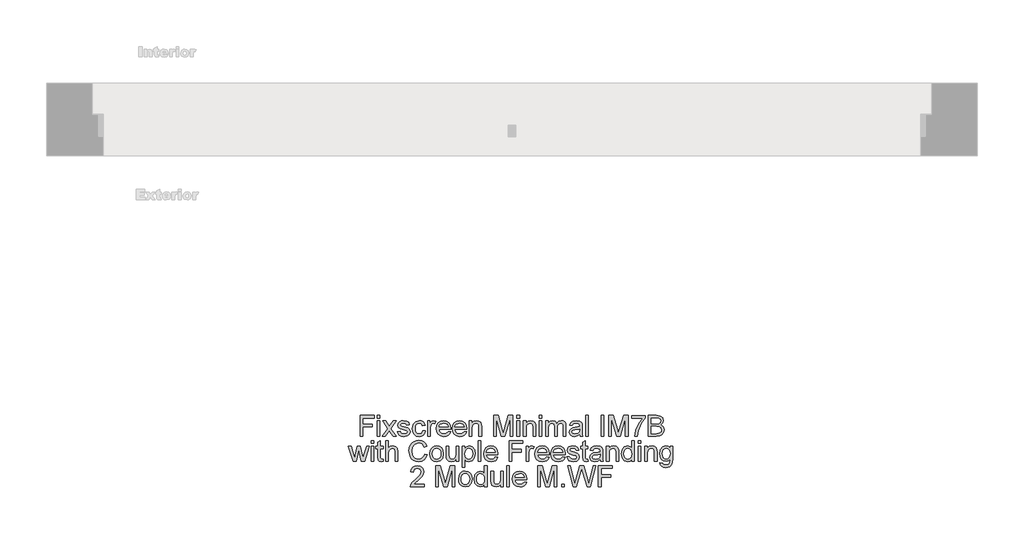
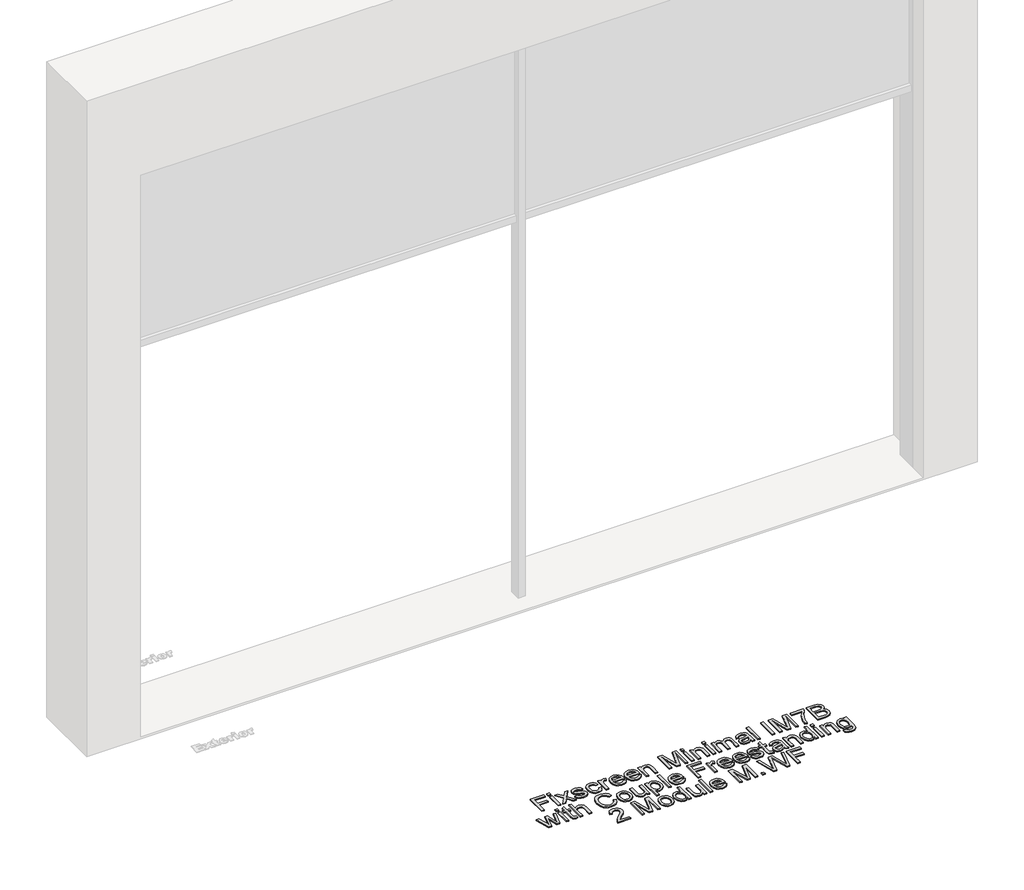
# One storey, part 8 of 14: 1 proxy.
"""IFC4 building model written with IfcOpenShell, lengths in millimetres."""

from ifc_helpers import new_model, si_unit, origin, origin_with_axes, place, context, project, spatial, polyline, outline, extrude, element, save

model = new_model("IFC4")

# Units and contexts
model_context = context("Model", 3, world=origin())
ifc_project = project(units=[si_unit("LENGTHUNIT", "METRE", prefix="MILLI")], contexts=[model_context])

# Site, building, storey
site = spatial("IfcSite", under=ifc_project)
building = spatial("IfcBuilding", under=site)
storey = spatial("IfcBuildingStorey", under=building, Name="Fixscreen Mini CF Overview Top", Elevation=0.0)

# Proxy
placement = place(None, origin())
element("IfcBuildingElementProxy", 1, Name="100mm Arial", ObjectType="100mm Arial", at=placement, inside=storey, context=model_context, shape_type="SweptSolid", body=[
    extrude(outline(polyline([(-8278.0016638, 8794.9284849), (-8278.0016638, 8895.3847951), (-8210.5075804, 8895.3847951), (-8210.5075804, 8882.8277563), (-8265.444625, 8882.8277563), (-8265.444625, 8853.0047892), (-8218.3557296, 8853.0047892), (-8218.3557296, 8840.4477504), (-8265.444625, 8840.4477504), (-8265.444625, 8794.9284849), (-8278.0016638, 8794.9284849)])), origin_with_axes(), (0.0, 0.0, 1.0), 5.0),
    extrude(outline(polyline([(-8194.811282, 8794.9284849), (-8194.811282, 8868.7010877), (-8182.2542432, 8868.7010877), (-8182.2542432, 8794.9284849), (-8194.811282, 8794.9284849)])), origin_with_axes(), (0.0, 0.0, 1.0), 5.0),
    extrude(outline(polyline([(-8194.811282, 8882.8277563), (-8194.811282, 8895.3847951), (-8182.2542432, 8895.3847951), (-8182.2542432, 8882.8277563), (-8194.811282, 8882.8277563)])), origin_with_axes(), (0.0, 0.0, 1.0), 5.0),
    extrude(outline(polyline([(-8171.2668343, 8794.9284849), (-8144.4359741, 8832.01099), (-8169.6972044, 8868.7010877), (-8154.5895171, 8868.7010877), (-8142.4003604, 8851.0427519), (-8136.7104522, 8842.7040933), (-8131.7808334, 8849.522173), (-8117.8994195, 8868.7010877), (-8102.7917322, 8868.7010877), (-8129.3282868, 8832.01099), (-8103.7727509, 8794.9284849), (-8118.8804381, 8794.9284849), (-8134.2579055, 8817.2221338), (-8137.0783342, 8821.2933612), (-8156.159147, 8794.9284849), (-8171.2668343, 8794.9284849)])), origin_with_axes(), (0.0, 0.0, 1.0), 5.0),
    extrude(outline(polyline([(-8097.4942315, 8816.9033027), (-8084.9371927, 8818.4729326), (-8079.1246572, 8809.1532554), (-8065.807329, 8805.9158938), (-8053.0050355, 8808.8834753), (-8048.8357063, 8815.8487077), (-8053.029561, 8821.489565), (-8065.9544818, 8825.070283), (-8084.8636163, 8831.2139124), (-8093.1164358, 8838.3876113), (-8095.9246016, 8848.5166289), (-8093.6682587, 8857.8730943), (-8087.5123667, 8865.0222677), (-8079.5293274, 8868.7378759), (-8068.7258595, 8870.2707175), (-8053.4464939, 8867.8059081), (-8043.7344093, 8861.1349813), (-8039.4179272, 8849.8655295), (-8051.974966, 8848.2958997), (-8056.6961182, 8855.2243439), (-8067.7448408, 8857.7136787), (-8079.7623193, 8855.3347085), (-8083.3675629, 8849.7919531), (-8081.8715094, 8846.1376586), (-8077.1871454, 8843.3662809), (-8066.3714147, 8840.6930051), (-8047.9405267, 8834.7823677), (-8039.381139, 8828.0869154), (-8036.2786675, 8817.1730829), (-8039.9206992, 8805.1556044), (-8050.4298616, 8796.4368011), (-8065.9790072, 8793.3588551), (-8078.6402792, 8794.8426458), (-8087.8802487, 8799.2940179), (-8094.0484035, 8806.6639205), (-8097.4942315, 8816.9033027)])), origin_with_axes(), (0.0, 0.0, 1.0), 5.0),
    extrude(outline(polyline([(-7975.0631035, 8821.6121923), (-7962.5060647, 8820.0425624), (-7966.0070751, 8808.8742782), (-7972.5860314, 8800.4344521), (-7981.6236657, 8795.1277543), (-7992.5007101, 8793.3588551), (-8005.8578922, 8795.8267301), (-8016.3026752, 8803.2303553), (-8023.0441127, 8815.2447681), (-8025.2912586, 8831.5450062), (-8021.4530231, 8852.4039153), (-8009.7543756, 8865.8070826), (-7992.6723883, 8870.2707175), (-7982.0620585, 8868.7378759), (-7973.5793128, 8864.1393509), (-7967.4939314, 8856.7203974), (-7964.0756946, 8846.7262698), (-7976.6327333, 8845.15664), (-7982.4575316, 8854.5621563), (-7992.5742865, 8857.7136787), (-8000.6891501, 8856.162443), (-8007.1301507, 8851.5087358), (-8011.3332025, 8843.501171), (-8012.7342198, 8831.8883627), (-8011.3638594, 8820.1192045), (-8007.2527781, 8812.0840486), (-8000.9282734, 8807.4579325), (-7992.917643, 8805.9158938), (-7981.0841055, 8809.766392), (-7975.0631035, 8821.6121923)])), origin_with_axes(), (0.0, 0.0, 1.0), 5.0),
    extrude(outline(polyline([(-7951.5186558, 8794.9284849), (-7951.5186558, 8868.7010877), (-7940.5312469, 8868.7010877), (-7940.5312469, 8857.7872551), (-7932.7321486, 8867.8426963), (-7924.8839994, 8870.2707175), (-7912.2779097, 8866.3956938), (-7916.4717644, 8855.1385048), (-7925.3009323, 8857.7136787), (-7932.4010548, 8855.2366066), (-7936.9260033, 8848.3694761), (-7938.961617, 8833.7032472), (-7938.961617, 8794.9284849), (-7951.5186558, 8794.9284849)])), origin_with_axes(), (0.0, 0.0, 1.0), 5.0),
    extrude(outline(polyline([(-7852.7791283, 8816.9033027), (-7840.4673442, 8815.3336729), (-7844.9033879, 8806.0569153), (-7851.9820506, 8799.1223396), (-7861.5439168, 8794.7997262), (-7873.429571, 8793.3588551), (-7888.1632449, 8795.8451242), (-7899.5001417, 8803.3039317), (-7906.7290229, 8815.2508995), (-7909.13865, 8831.2016496), (-7906.7044974, 8847.6888944), (-7899.4020398, 8860.0190726), (-7888.2184272, 8867.7078063), (-7874.1408095, 8870.2707175), (-7860.5015845, 8867.7139376), (-7849.6030804, 8860.043598), (-7842.4569727, 8847.7379453), (-7840.0749367, 8831.275226), (-7840.1485131, 8827.8907117), (-7896.5816112, 8827.8907117), (-7894.4080417, 8818.4913267), (-7889.3588614, 8811.5812765), (-7882.0717322, 8807.3322395), (-7873.1843163, 8805.9158938), (-7860.8725322, 8808.5401187), (-7852.7791283, 8816.9033027)]), holes=[polyline([(-7896.5816112, 8840.4477504), (-7852.6319755, 8840.4477504), (-7857.6596961, 8851.8275668), (-7864.9805478, 8856.2421508), (-7874.1898604, 8857.7136787), (-7889.653167, 8853.0170519), (-7894.5184063, 8847.5264132), (-7896.5816112, 8840.4477504)])]), origin_with_axes(), (0.0, 0.0, 1.0), 5.0),
    extrude(outline(polyline([(-7775.8672658, 8816.9033027), (-7763.5554817, 8815.3336729), (-7767.9915255, 8806.0569153), (-7775.0701882, 8799.1223396), (-7784.6320544, 8794.7997262), (-7796.5177085, 8793.3588551), (-7811.2513824, 8795.8451242), (-7822.5882792, 8803.3039317), (-7829.8171604, 8815.2508995), (-7832.2267875, 8831.2016496), (-7829.792635, 8847.6888944), (-7822.4901774, 8860.0190726), (-7811.3065647, 8867.7078063), (-7797.228947, 8870.2707175), (-7783.5897221, 8867.7139376), (-7772.691218, 8860.043598), (-7765.5451102, 8847.7379453), (-7763.1630743, 8831.275226), (-7763.2366507, 8827.8907117), (-7819.6697487, 8827.8907117), (-7817.4961793, 8818.4913267), (-7812.4469989, 8811.5812765), (-7805.1598697, 8807.3322395), (-7796.2724538, 8805.9158938), (-7783.9606697, 8808.5401187), (-7775.8672658, 8816.9033027)]), holes=[polyline([(-7819.6697487, 8840.4477504), (-7775.720113, 8840.4477504), (-7780.7478336, 8851.8275668), (-7788.0686854, 8856.2421508), (-7797.277998, 8857.7136787), (-7812.7413045, 8853.0170519), (-7817.6065439, 8847.5264132), (-7819.6697487, 8840.4477504)])]), origin_with_axes(), (0.0, 0.0, 1.0), 5.0),
    extrude(outline(polyline([(-7750.6060355, 8794.9284849), (-7750.6060355, 8868.7010877), (-7738.0489967, 8868.7010877), (-7738.0489967, 8858.4003918), (-7728.4472767, 8867.3031361), (-7715.3384149, 8870.2707175), (-7703.4803519, 8867.8794845), (-7695.386948, 8861.6009652), (-7691.6222889, 8852.3671271), (-7690.9601014, 8840.2270212), (-7690.9601014, 8794.9284849), (-7703.5171401, 8794.9284849), (-7703.5171401, 8838.5347641), (-7704.9641426, 8849.6448003), (-7710.0777024, 8855.5186495), (-7718.6984038, 8857.7136787), (-7732.3223003, 8852.78406), (-7736.6173226, 8845.6410179), (-7738.0489967, 8834.0711292), (-7738.0489967, 8794.9284849), (-7750.6060355, 8794.9284849)])), origin_with_axes(), (0.0, 0.0, 1.0), 5.0),
    extrude(outline(polyline([(-7632.8837971, 8794.9284849), (-7632.8837971, 8895.3847951), (-7611.2768612, 8895.3847951), (-7590.7245204, 8824.5797737), (-7586.5797166, 8809.7909175), (-7582.0915563, 8825.806047), (-7561.882572, 8895.3847951), (-7540.2756361, 8895.3847951), (-7540.2756361, 8794.9284849), (-7552.8326749, 8794.9284849), (-7552.8326749, 8882.8277563), (-7578.0693798, 8794.9284849), (-7595.0900534, 8794.9284849), (-7620.3267583, 8882.8277563), (-7620.3267583, 8794.9284849), (-7632.8837971, 8794.9284849)])), origin_with_axes(), (0.0, 0.0, 1.0), 5.0),
    extrude(outline(polyline([(-7519.8704481, 8882.8277563), (-7519.8704481, 8895.3847951), (-7507.3134094, 8895.3847951), (-7507.3134094, 8882.8277563), (-7519.8704481, 8882.8277563)])), origin_with_axes(), (0.0, 0.0, 1.0), 5.0),
    extrude(outline(polyline([(-7519.8704481, 8794.9284849), (-7519.8704481, 8868.7010877), (-7507.3134094, 8868.7010877), (-7507.3134094, 8794.9284849), (-7519.8704481, 8794.9284849)])), origin_with_axes(), (0.0, 0.0, 1.0), 5.0),
    extrude(outline(polyline([(-7488.4778512, 8794.9284849), (-7488.4778512, 8868.7010877), (-7475.9208124, 8868.7010877), (-7475.9208124, 8858.4003918), (-7466.3190924, 8867.3031361), (-7453.2102306, 8870.2707175), (-7441.3521676, 8867.8794845), (-7433.2587637, 8861.6009652), (-7429.4941047, 8852.3671271), (-7428.8319171, 8840.2270212), (-7428.8319171, 8794.9284849), (-7441.3889558, 8794.9284849), (-7441.3889558, 8838.5347641), (-7442.8359583, 8849.6448003), (-7447.9495181, 8855.5186495), (-7456.5702195, 8857.7136787), (-7470.1941161, 8852.78406), (-7474.4891383, 8845.6410179), (-7475.9208124, 8834.0711292), (-7475.9208124, 8794.9284849), (-7488.4778512, 8794.9284849)])), origin_with_axes(), (0.0, 0.0, 1.0), 5.0),
    extrude(outline(polyline([(-7411.5659888, 8794.9284849), (-7411.5659888, 8868.7010877), (-7399.00895, 8868.7010877), (-7399.00895, 8794.9284849), (-7411.5659888, 8794.9284849)])), origin_with_axes(), (0.0, 0.0, 1.0), 5.0),
    extrude(outline(polyline([(-7411.5659888, 8882.8277563), (-7411.5659888, 8895.3847951), (-7399.00895, 8895.3847951), (-7399.00895, 8882.8277563), (-7411.5659888, 8882.8277563)])), origin_with_axes(), (0.0, 0.0, 1.0), 5.0),
    extrude(outline(polyline([(-7380.1733918, 8794.9284849), (-7380.1733918, 8868.7010877), (-7367.6163531, 8868.7010877), (-7367.6163531, 8856.5609818), (-7358.9833889, 8866.5060584), (-7346.6961303, 8870.2707175), (-7334.114566, 8866.432482), (-7327.1983845, 8855.678065), (-7317.4004607, 8866.6225544), (-7305.027363, 8870.2707175), (-7295.5881241, 8868.7532043), (-7288.6075632, 8864.2006646), (-7284.2941468, 8856.4904711), (-7282.8563414, 8845.4999965), (-7282.8563414, 8794.9284849), (-7295.4133801, 8794.9284849), (-7295.4133801, 8840.1043939), (-7296.5783398, 8850.5890308), (-7300.79672, 8855.7516414), (-7307.9704189, 8857.7136787), (-7320.3189912, 8852.6859581), (-7324.0070082, 8846.14379), (-7325.2363472, 8836.5727268), (-7325.2363472, 8794.9284849), (-7337.793386, 8794.9284849), (-7337.793386, 8841.5023455), (-7340.6996538, 8853.6669768), (-7350.2277974, 8857.7136787), (-7359.5229492, 8855.0158774), (-7365.7033667, 8847.1186773), (-7367.6163531, 8832.1336173), (-7367.6163531, 8794.9284849), (-7380.1733918, 8794.9284849)])), origin_with_axes(), (0.0, 0.0, 1.0), 5.0),
    extrude(outline(polyline([(-7216.9318878, 8804.346264), (-7229.1087819, 8795.8359272), (-7242.5610002, 8793.3588551), (-7253.0548341, 8794.8487771), (-7260.7956844, 8799.3185434), (-7265.5689533, 8806.1059662), (-7267.1600429, 8814.548858), (-7264.7565472, 8824.4816718), (-7258.4412396, 8831.692159), (-7249.6488599, 8835.8124373), (-7238.7840784, 8837.7008982), (-7217.0054642, 8842.0173803), (-7216.9318878, 8844.8132834), (-7220.3899786, 8854.0839097), (-7234.2713925, 8857.7136787), (-7246.9755841, 8855.2979203), (-7253.0333743, 8846.7262698), (-7265.5904131, 8848.2958997), (-7260.1580223, 8860.5586328), (-7249.2196643, 8867.7445945), (-7232.6527118, 8870.2707175), (-7217.4346599, 8868.0389001), (-7208.8384839, 8862.434831), (-7204.9879857, 8853.9122315), (-7204.3748491, 8842.9248225), (-7204.3748491, 8827.3021005), (-7203.7371869, 8805.4866982), (-7201.2355894, 8794.9284849), (-7213.7926281, 8794.9284849), (-7216.9318878, 8804.346264)]), holes=[polyline([(-7216.9318878, 8829.4603415), (-7237.189923, 8825.6098433), (-7247.993391, 8823.5742296), (-7252.8862215, 8820.2632916), (-7254.6030041, 8815.4317748), (-7250.8628705, 8808.6382206), (-7239.8877243, 8805.9158938), (-7227.1835328, 8808.9202635), (-7218.992027, 8816.1920642), (-7217.0054642, 8825.9041489), (-7216.9318878, 8829.4603415)])]), origin_with_axes(), (0.0, 0.0, 1.0), 5.0),
    extrude(outline(polyline([(-7187.1089208, 8794.9284849), (-7187.1089208, 8895.3847951), (-7174.551882, 8895.3847951), (-7174.551882, 8794.9284849), (-7187.1089208, 8794.9284849)])), origin_with_axes(), (0.0, 0.0, 1.0), 5.0),
    extrude(outline(polyline([(-7113.336318, 8794.9284849), (-7113.336318, 8895.3847951), (-7100.7792792, 8895.3847951), (-7100.7792792, 8794.9284849), (-7113.336318, 8794.9284849)])), origin_with_axes(), (0.0, 0.0, 1.0), 5.0),
    extrude(outline(polyline([(-7075.6652017, 8794.9284849), (-7075.6652017, 8895.3847951), (-7054.0582658, 8895.3847951), (-7033.505925, 8824.5797737), (-7029.3611212, 8809.7909175), (-7024.8729609, 8825.806047), (-7004.6639766, 8895.3847951), (-6983.0570408, 8895.3847951), (-6983.0570408, 8794.9284849), (-6995.6140795, 8794.9284849), (-6995.6140795, 8882.8277563), (-7020.8507844, 8794.9284849), (-7037.8714581, 8794.9284849), (-7063.1081629, 8882.8277563), (-7063.1081629, 8794.9284849), (-7075.6652017, 8794.9284849)])), origin_with_axes(), (0.0, 0.0, 1.0), 5.0),
    extrude(outline(polyline([(-6965.7911125, 8881.2581264), (-6965.7911125, 8893.8151652), (-6899.8666589, 8893.8151652), (-6899.8666589, 8883.6616221), (-6918.567327, 8856.646821), (-6932.8779366, 8822.2253289), (-6937.5377752, 8794.9284849), (-6950.094814, 8794.9284849), (-6945.1038816, 8823.2553985), (-6931.4064087, 8855.2733948), (-6912.4236977, 8881.2581264), (-6965.7911125, 8881.2581264)])), origin_with_axes(), (0.0, 0.0, 1.0), 5.0),
    extrude(outline(polyline([(-6884.1703605, 8794.9284849), (-6884.1703605, 8895.3847951), (-6845.8370566, 8895.3847951), (-6827.0628121, 8892.4294764), (-6815.9773013, 8883.3427911), (-6811.9673875, 8870.4914467), (-6815.3396392, 8858.7560111), (-6825.5299704, 8849.8655295), (-6813.1568727, 8840.4968014), (-6808.8281279, 8824.8740793), (-6811.7834466, 8811.3728101), (-6819.1042983, 8801.7588273), (-6830.0303935, 8796.6575303), (-6846.1313622, 8794.9284849), (-6884.1703605, 8794.9284849)]), holes=[polyline([(-6871.6133217, 8854.5744191), (-6848.6820107, 8854.5744191), (-6835.291106, 8855.6535396), (-6827.2344903, 8860.3011154), (-6824.5244263, 8868.4803585), (-6827.0505494, 8876.6718642), (-6834.2855619, 8881.5156438), (-6850.4233188, 8882.8277563), (-6871.6133217, 8882.8277563), (-6871.6133217, 8854.5744191)]), polyline([(-6871.6133217, 8807.4855237), (-6845.861582, 8807.4855237), (-6836.5419048, 8807.976033), (-6828.6569674, 8810.7106225), (-6823.4330431, 8816.2901661), (-6821.3851666, 8824.751452), (-6823.7886623, 8834.5125876), (-6831.5754979, 8840.3373858), (-6847.0878554, 8842.0173803), (-6871.6133217, 8842.0173803), (-6871.6133217, 8807.4855237)])]), origin_with_axes(), (0.0, 0.0, 1.0), 5.0),
    extrude(outline(polyline([(-8312.0675365, 8672.9536671), (-8334.5083383, 8746.7262698), (-8321.4607902, 8746.7262698), (-8308.7320731, 8703.6840764), (-8304.9306258, 8688.306609), (-8301.8158916, 8703.1199907), (-8291.686874, 8746.7262698), (-8276.7263395, 8746.7262698), (-8266.6463729, 8703.242618), (-8263.8749952, 8689.8271879), (-8259.9018696, 8703.978382), (-8247.1486271, 8746.7262698), (-8234.0520281, 8746.7262698), (-8256.6645081, 8672.9536671), (-8271.8457717, 8672.9536671), (-8281.48428, 8716.2165897), (-8284.2801832, 8729.7055962), (-8296.7145946, 8672.9536671), (-8312.0675365, 8672.9536671)])), origin_with_axes(), (0.0, 0.0, 1.0), 5.0),
    extrude(outline(polyline([(-8225.419064, 8672.9536671), (-8225.419064, 8746.7262698), (-8212.8620252, 8746.7262698), (-8212.8620252, 8672.9536671), (-8225.419064, 8672.9536671)])), origin_with_axes(), (0.0, 0.0, 1.0), 5.0),
    extrude(outline(polyline([(-8225.419064, 8760.8529384), (-8225.419064, 8773.4099772), (-8212.8620252, 8773.4099772), (-8212.8620252, 8760.8529384), (-8225.419064, 8760.8529384)])), origin_with_axes(), (0.0, 0.0, 1.0), 5.0),
    extrude(outline(polyline([(-8167.3427596, 8683.4260412), (-8165.7731298, 8672.5857851), (-8175.1663834, 8671.3840372), (-8185.6878085, 8673.4687018), (-8190.9362583, 8678.9378808), (-8192.4568372, 8693.1871768), (-8192.4568372, 8734.1692311), (-8201.8746163, 8734.1692311), (-8201.8746163, 8746.7262698), (-8192.4568372, 8746.7262698), (-8192.4568372, 8764.6543857), (-8179.8997984, 8772.0365511), (-8179.8997984, 8746.7262698), (-8167.3427596, 8746.7262698), (-8167.3427596, 8734.1692311), (-8179.8997984, 8734.1692311), (-8179.8997984, 8693.5550588), (-8179.2376108, 8687.0803357), (-8177.0916325, 8684.7872046), (-8172.8119386, 8683.941076), (-8167.3427596, 8683.4260412)])), origin_with_axes(), (0.0, 0.0, 1.0), 5.0),
    extrude(outline(polyline([(-8154.7857209, 8672.9536671), (-8154.7857209, 8773.4099772), (-8142.2286821, 8773.4099772), (-8142.2286821, 8736.4746249), (-8132.4368897, 8745.340581), (-8120.3764916, 8748.2958997), (-8106.2743484, 8745.0708008), (-8097.7149607, 8736.1557938), (-8095.1397867, 8719.650155), (-8095.1397867, 8672.9536671), (-8107.6968255, 8672.9536671), (-8107.6968255, 8718.3503053), (-8111.6944765, 8731.5940571), (-8123.025242, 8735.7388609), (-8133.3136751, 8732.9429577), (-8140.1808057, 8725.3645886), (-8142.2286821, 8712.1453623), (-8142.2286821, 8672.9536671), (-8154.7857209, 8672.9536671)])), origin_with_axes(), (0.0, 0.0, 1.0), 5.0),
    extrude(outline(polyline([(-7966.4301393, 8708.6627461), (-7953.8731006, 8705.4253845), (-7959.667242, 8690.7928781), (-7968.7600586, 8680.1028405), (-7980.7039608, 8673.563738), (-7995.0513586, 8671.3840372), (-8009.6164199, 8673.0333748), (-8021.183243, 8677.9813877), (-8030.049199, 8686.0563975), (-8036.5116594, 8697.0867259), (-8041.772372, 8723.9421116), (-8040.2855156, 8738.5899464), (-8035.8249464, 8751.2389556), (-8028.6236563, 8761.4875349), (-8018.9146373, 8768.9340796), (-8007.3999309, 8773.4682252), (-7994.7815784, 8774.9796071), (-7981.0135948, 8773.0237011), (-7969.6307127, 8767.1559833), (-7960.9885515, 8757.7382042), (-7955.4427304, 8745.1321145), (-7967.9997692, 8742.1400076), (-7978.3004651, 8757.5787887), (-7995.2720878, 8762.4225683), (-8014.9169863, 8757.0514912), (-8026.0147598, 8742.6305169), (-8029.2153332, 8723.9666371), (-8025.4261486, 8702.3351757), (-8013.6293993, 8688.5150755), (-7996.3021574, 8683.941076), (-7985.8205862, 8685.4984431), (-7977.0864545, 8690.1705444), (-7970.4921697, 8697.9083291), (-7966.4301393, 8708.6627461)])), origin_with_axes(), (0.0, 0.0, 1.0), 5.0),
    extrude(outline(polyline([(-7941.3160618, 8709.8399684), (-7938.5998664, 8727.6270629), (-7930.4512802, 8740.1289194), (-7920.3835763, 8746.2541546), (-7908.3293096, 8748.2958997), (-7895.1376744, 8745.8096305), (-7884.6009209, 8738.3508231), (-7877.6939364, 8726.5080885), (-7875.3916083, 8710.870038), (-7879.4628357, 8688.5273382), (-7891.3208987, 8675.8844603), (-7908.3293096, 8671.3840372), (-7921.6803603, 8673.8611093), (-7932.2048511, 8681.2923256), (-7939.0382591, 8693.3833805), (-7941.3160618, 8709.8399684)]), holes=[polyline([(-7928.759023, 8709.8644939), (-7927.3058892, 8698.5000059), (-7922.9464875, 8690.4035364), (-7916.3859253, 8685.5566911), (-7908.3293096, 8683.941076), (-7900.3094821, 8685.5658881), (-7893.7611826, 8690.4403246), (-7889.4017809, 8698.6440931), (-7887.948647, 8710.2569014), (-7889.410978, 8721.2902955), (-7893.7979708, 8729.2764005), (-7900.3554673, 8734.1232458), (-7908.3293096, 8735.7388609), (-7916.3859253, 8734.1293772), (-7922.9464875, 8729.300926), (-7927.3058892, 8721.2228505), (-7928.759023, 8709.8644939)])]), origin_with_axes(), (0.0, 0.0, 1.0), 5.0),
    extrude(outline(polyline([(-7814.1760443, 8672.9536671), (-7814.1760443, 8685.6333332), (-7824.0107563, 8674.9463612), (-7836.8375752, 8671.3840372), (-7848.6465872, 8673.8856348), (-7856.7890421, 8680.1641542), (-7860.5291757, 8689.410255), (-7861.2649397, 8701.084377), (-7861.2649397, 8746.7262698), (-7848.7079009, 8746.7262698), (-7848.7079009, 8706.9950143), (-7847.9476114, 8694.1927209), (-7842.9812045, 8686.6756655), (-7833.6247391, 8683.941076), (-7823.1401022, 8686.7369791), (-7816.211658, 8694.3521364), (-7814.1760443, 8708.343915), (-7814.1760443, 8746.7262698), (-7801.6190055, 8746.7262698), (-7801.6190055, 8672.9536671), (-7814.1760443, 8672.9536671)])), origin_with_axes(), (0.0, 0.0, 1.0), 5.0),
    extrude(outline(polyline([(-7784.3530772, 8644.7003298), (-7784.3530772, 8746.7262698), (-7771.7960384, 8746.7262698), (-7771.7960384, 8734.4144857), (-7763.1140233, 8744.8255462), (-7751.3908504, 8748.2958997), (-7735.4738228, 8743.4398573), (-7725.075025, 8729.7546471), (-7721.5678834, 8710.4040542), (-7725.5287462, 8690.0601798), (-7737.0311899, 8676.2032913), (-7752.9114293, 8671.3840372), (-7763.8375246, 8674.609136), (-7771.7960384, 8682.7638536), (-7771.7960384, 8644.7003298), (-7784.3530772, 8644.7003298)]), holes=[polyline([(-7771.7960384, 8709.2513572), (-7770.4379407, 8697.9941682), (-7766.3636476, 8690.1214935), (-7760.3518427, 8685.4861804), (-7753.1812095, 8683.941076), (-7745.8940803, 8685.5413627), (-7739.7289912, 8690.3422227), (-7735.5259394, 8698.5030716), (-7734.1249221, 8710.183325), (-7735.4922169, 8721.3792004), (-7739.5941011, 8729.3622397), (-7745.596709, 8734.1447056), (-7752.6661747, 8735.7388609), (-7759.7632315, 8734.043538), (-7765.9957656, 8728.9575695), (-7770.3459702, 8720.6403707), (-7771.7960384, 8709.2513572)])]), origin_with_axes(), (0.0, 0.0, 1.0), 5.0),
    extrude(outline(polyline([(-7707.4412147, 8672.9536671), (-7707.4412147, 8773.4099772), (-7694.884176, 8773.4099772), (-7694.884176, 8672.9536671), (-7707.4412147, 8672.9536671)])), origin_with_axes(), (0.0, 0.0, 1.0), 5.0),
    extrude(outline(polyline([(-7624.3979857, 8694.9284849), (-7612.0862016, 8693.3588551), (-7616.5222453, 8684.0820974), (-7623.600908, 8677.1475218), (-7633.1627742, 8672.8249084), (-7645.0484284, 8671.3840372), (-7659.7821023, 8673.8703064), (-7671.1189991, 8681.3291138), (-7678.3478803, 8693.2760816), (-7680.7575074, 8709.2268318), (-7678.3233548, 8725.7140765), (-7671.0208972, 8738.0442547), (-7659.8372846, 8745.7329884), (-7645.7596669, 8748.2958997), (-7632.1204419, 8745.7391198), (-7621.2219378, 8738.0687802), (-7614.07583, 8725.7631275), (-7611.6937941, 8709.3004082), (-7611.7673705, 8705.9158938), (-7668.2004686, 8705.9158938), (-7666.0268991, 8696.5165088), (-7660.9777188, 8689.6064587), (-7653.6905896, 8685.3574217), (-7644.8031737, 8683.941076), (-7632.4913896, 8686.5653009), (-7624.3979857, 8694.9284849)]), holes=[polyline([(-7668.2004686, 8718.4729326), (-7624.2508329, 8718.4729326), (-7629.2785535, 8729.852749), (-7636.5994052, 8734.2673329), (-7645.8087178, 8735.7388609), (-7661.2720243, 8731.0422341), (-7666.1372637, 8725.5515953), (-7668.2004686, 8718.4729326)])]), origin_with_axes(), (0.0, 0.0, 1.0), 5.0),
    extrude(outline(polyline([(-7558.3263794, 8672.9536671), (-7558.3263794, 8773.4099772), (-7490.832296, 8773.4099772), (-7490.832296, 8760.8529384), (-7545.7693406, 8760.8529384), (-7545.7693406, 8731.0299714), (-7498.6804452, 8731.0299714), (-7498.6804452, 8718.4729326), (-7545.7693406, 8718.4729326), (-7545.7693406, 8672.9536671), (-7558.3263794, 8672.9536671)])), origin_with_axes(), (0.0, 0.0, 1.0), 5.0),
    extrude(outline(polyline([(-7475.1359975, 8672.9536671), (-7475.1359975, 8746.7262698), (-7464.1485886, 8746.7262698), (-7464.1485886, 8735.8124373), (-7456.3494903, 8745.8678785), (-7448.5013411, 8748.2958997), (-7435.8952514, 8744.420876), (-7440.0891061, 8733.1636869), (-7448.918274, 8735.7388609), (-7456.0183965, 8733.2617888), (-7460.543345, 8726.3946582), (-7462.5789588, 8711.7284293), (-7462.5789588, 8672.9536671), (-7475.1359975, 8672.9536671)])), origin_with_axes(), (0.0, 0.0, 1.0), 5.0),
    extrude(outline(polyline([(-7376.39647, 8694.9284849), (-7364.0846859, 8693.3588551), (-7368.5207296, 8684.0820974), (-7375.5993924, 8677.1475218), (-7385.1612586, 8672.8249084), (-7397.0469127, 8671.3840372), (-7411.7805866, 8673.8703064), (-7423.1174834, 8681.3291138), (-7430.3463646, 8693.2760816), (-7432.7559917, 8709.2268318), (-7430.3218391, 8725.7140765), (-7423.0193815, 8738.0442547), (-7411.8357689, 8745.7329884), (-7397.7581512, 8748.2958997), (-7384.1189262, 8745.7391198), (-7373.2204221, 8738.0687802), (-7366.0743144, 8725.7631275), (-7363.6922784, 8709.3004082), (-7363.7658548, 8705.9158938), (-7420.1989529, 8705.9158938), (-7418.0253835, 8696.5165088), (-7412.9762031, 8689.6064587), (-7405.6890739, 8685.3574217), (-7396.801658, 8683.941076), (-7384.4898739, 8686.5653009), (-7376.39647, 8694.9284849)]), holes=[polyline([(-7420.1989529, 8718.4729326), (-7376.2493172, 8718.4729326), (-7381.2770378, 8729.852749), (-7388.5978895, 8734.2673329), (-7397.8072021, 8735.7388609), (-7413.2705087, 8731.0422341), (-7418.1357481, 8725.5515953), (-7420.1989529, 8718.4729326)])]), origin_with_axes(), (0.0, 0.0, 1.0), 5.0),
    extrude(outline(polyline([(-7299.4846076, 8694.9284849), (-7287.1728235, 8693.3588551), (-7291.6088672, 8684.0820974), (-7298.6875299, 8677.1475218), (-7308.2493961, 8672.8249084), (-7320.1350502, 8671.3840372), (-7334.8687241, 8673.8703064), (-7346.2056209, 8681.3291138), (-7353.4345022, 8693.2760816), (-7355.8441292, 8709.2268318), (-7353.4099767, 8725.7140765), (-7346.1075191, 8738.0442547), (-7334.9239064, 8745.7329884), (-7320.8462887, 8748.2958997), (-7307.2070638, 8745.7391198), (-7296.3085597, 8738.0687802), (-7289.1624519, 8725.7631275), (-7286.780416, 8709.3004082), (-7286.8539924, 8705.9158938), (-7343.2870904, 8705.9158938), (-7341.113521, 8696.5165088), (-7336.0643406, 8689.6064587), (-7328.7772114, 8685.3574217), (-7319.8897956, 8683.941076), (-7307.5780115, 8686.5653009), (-7299.4846076, 8694.9284849)]), holes=[polyline([(-7343.2870904, 8718.4729326), (-7299.3374548, 8718.4729326), (-7304.3651754, 8729.852749), (-7311.6860271, 8734.2673329), (-7320.8953397, 8735.7388609), (-7336.3586462, 8731.0422341), (-7341.2238856, 8725.5515953), (-7343.2870904, 8718.4729326)])]), origin_with_axes(), (0.0, 0.0, 1.0), 5.0),
    extrude(outline(polyline([(-7278.9322668, 8694.9284849), (-7266.375228, 8696.4981147), (-7260.5626925, 8687.1784375), (-7247.2453642, 8683.941076), (-7234.4430708, 8686.9086574), (-7230.2737415, 8693.8738898), (-7234.4675963, 8699.5147471), (-7247.392517, 8703.0954652), (-7266.3016516, 8709.2390945), (-7274.554471, 8716.4127934), (-7277.3626369, 8726.541811), (-7275.106294, 8735.8982764), (-7268.950402, 8743.0474499), (-7260.9673627, 8746.763058), (-7250.1638947, 8748.2958997), (-7234.8845292, 8745.8310903), (-7225.1724445, 8739.1601635), (-7220.8559625, 8727.8907117), (-7233.4130012, 8726.3210818), (-7238.1341535, 8733.2495261), (-7249.1828761, 8735.7388609), (-7261.2003546, 8733.3598907), (-7264.8055981, 8727.8171353), (-7263.3095447, 8724.1628408), (-7258.6251806, 8721.3914631), (-7247.80945, 8718.7181873), (-7229.378562, 8712.8075499), (-7220.8191743, 8706.1120976), (-7217.7167028, 8695.198265), (-7221.3587345, 8683.1807865), (-7231.8678968, 8674.4619832), (-7247.4170425, 8671.3840372), (-7260.0783145, 8672.8678279), (-7269.318284, 8677.3192001), (-7275.4864387, 8684.6891027), (-7278.9322668, 8694.9284849)])), origin_with_axes(), (0.0, 0.0, 1.0), 5.0),
    extrude(outline(polyline([(-7176.9063268, 8683.4260412), (-7175.3366969, 8672.5857851), (-7184.7299505, 8671.3840372), (-7195.2513756, 8673.4687018), (-7200.4998254, 8678.9378808), (-7202.0204043, 8693.1871768), (-7202.0204043, 8734.1692311), (-7211.4381834, 8734.1692311), (-7211.4381834, 8746.7262698), (-7202.0204043, 8746.7262698), (-7202.0204043, 8764.6543857), (-7189.4633655, 8772.0365511), (-7189.4633655, 8746.7262698), (-7176.9063268, 8746.7262698), (-7176.9063268, 8734.1692311), (-7189.4633655, 8734.1692311), (-7189.4633655, 8693.5550588), (-7188.8011779, 8687.0803357), (-7186.6551996, 8684.7872046), (-7182.3755058, 8683.941076), (-7176.9063268, 8683.4260412)])), origin_with_axes(), (0.0, 0.0, 1.0), 5.0),
    extrude(outline(polyline([(-7117.2603926, 8682.3714461), (-7129.4372867, 8673.8611093), (-7142.8895049, 8671.3840372), (-7153.3833389, 8672.8739593), (-7161.1241892, 8677.3437255), (-7165.8974581, 8684.1311483), (-7167.4885477, 8692.5740401), (-7165.085052, 8702.506854), (-7158.7697444, 8709.7173411), (-7149.9773647, 8713.8376195), (-7139.1125831, 8715.7260804), (-7117.333969, 8720.0425624), (-7117.2603926, 8722.8384656), (-7120.7184834, 8732.1090919), (-7134.5998973, 8735.7388609), (-7147.3040889, 8733.3231025), (-7153.3618791, 8724.751452), (-7165.9189178, 8726.3210818), (-7160.486527, 8738.583815), (-7149.5481691, 8745.7697766), (-7132.9812165, 8748.2958997), (-7117.7631647, 8746.0640822), (-7109.1669887, 8740.4600132), (-7105.3164905, 8731.9374136), (-7104.7033538, 8720.9500047), (-7104.7033538, 8705.3272826), (-7104.0656917, 8683.5118803), (-7101.5640942, 8672.9536671), (-7114.1211329, 8672.9536671), (-7117.2603926, 8682.3714461)]), holes=[polyline([(-7117.2603926, 8707.4855237), (-7137.5184278, 8703.6350255), (-7148.3218957, 8701.5994117), (-7153.2147263, 8698.2884738), (-7154.9315089, 8693.4569569), (-7151.1913753, 8686.6634027), (-7140.2162291, 8683.941076), (-7127.5120375, 8686.9454456), (-7119.3205318, 8694.2172464), (-7117.333969, 8703.9293311), (-7117.2603926, 8707.4855237)])]), origin_with_axes(), (0.0, 0.0, 1.0), 5.0),
    extrude(outline(polyline([(-7087.4374255, 8672.9536671), (-7087.4374255, 8746.7262698), (-7074.8803868, 8746.7262698), (-7074.8803868, 8736.425574), (-7065.2786667, 8745.3283182), (-7052.1698049, 8748.2958997), (-7040.311742, 8745.9046667), (-7032.2183381, 8739.6261473), (-7028.453679, 8730.3923092), (-7027.7914914, 8718.2522034), (-7027.7914914, 8672.9536671), (-7040.3485302, 8672.9536671), (-7040.3485302, 8716.5599462), (-7041.7955327, 8727.6699825), (-7046.9090924, 8733.5438317), (-7055.5297938, 8735.7388609), (-7069.1536904, 8730.8092422), (-7073.4487127, 8723.6662001), (-7074.8803868, 8712.0963113), (-7074.8803868, 8672.9536671), (-7087.4374255, 8672.9536671)])), origin_with_axes(), (0.0, 0.0, 1.0), 5.0),
    extrude(outline(polyline([(-6965.0062975, 8672.9536671), (-6965.0062975, 8684.7994673), (-6973.3142993, 8674.7378947), (-6984.7983489, 8671.3840372), (-7000.3474945, 8676.2400795), (-7011.3349035, 8689.7903997), (-7015.2344526, 8709.766392), (-7011.6414718, 8729.7546471), (-7000.8747921, 8743.5134337), (-6984.8473998, 8748.2958997), (-6973.2713797, 8744.8745971), (-6965.0062975, 8735.9841156), (-6965.0062975, 8773.4099772), (-6952.4492588, 8773.4099772), (-6952.4492588, 8672.9536671), (-6965.0062975, 8672.9536671)]), holes=[polyline([(-7002.6774138, 8709.815443), (-7001.2610682, 8698.4570864), (-6997.0120311, 8690.3790109), (-6990.837745, 8685.5505597), (-6983.645652, 8683.941076), (-6976.4566246, 8685.4769833), (-6970.4386883, 8690.0847053), (-6966.3643952, 8697.8500811), (-6965.0062975, 8708.8589498), (-6966.3889207, 8720.8948224), (-6970.5367902, 8729.2396123), (-6976.7080107, 8734.1140488), (-6984.1606868, 8735.7388609), (-6991.4263562, 8734.1784281), (-6997.3799131, 8729.4971297), (-7001.3530387, 8721.4558424), (-7002.6774138, 8709.815443)])]), origin_with_axes(), (0.0, 0.0, 1.0), 5.0),
    extrude(outline(polyline([(-6933.6137006, 8672.9536671), (-6933.6137006, 8746.7262698), (-6921.0566619, 8746.7262698), (-6921.0566619, 8672.9536671), (-6933.6137006, 8672.9536671)])), origin_with_axes(), (0.0, 0.0, 1.0), 5.0),
    extrude(outline(polyline([(-6933.6137006, 8760.8529384), (-6933.6137006, 8773.4099772), (-6921.0566619, 8773.4099772), (-6921.0566619, 8760.8529384), (-6933.6137006, 8760.8529384)])), origin_with_axes(), (0.0, 0.0, 1.0), 5.0),
    extrude(outline(polyline([(-6902.2211037, 8672.9536671), (-6902.2211037, 8746.7262698), (-6889.6640649, 8746.7262698), (-6889.6640649, 8736.425574), (-6880.0623449, 8745.3283182), (-6866.9534831, 8748.2958997), (-6855.0954201, 8745.9046667), (-6847.0020162, 8739.6261473), (-6843.2373571, 8730.3923092), (-6842.5751695, 8718.2522034), (-6842.5751695, 8672.9536671), (-6855.1322083, 8672.9536671), (-6855.1322083, 8716.5599462), (-6856.5792108, 8727.6699825), (-6861.6927706, 8733.5438317), (-6870.313472, 8735.7388609), (-6883.9373685, 8730.8092422), (-6888.2323908, 8723.6662001), (-6889.6640649, 8712.0963113), (-6889.6640649, 8672.9536671), (-6902.2211037, 8672.9536671)])), origin_with_axes(), (0.0, 0.0, 1.0), 5.0),
    extrude(outline(polyline([(-6828.4485009, 8666.6751477), (-6815.8914622, 8665.1055178), (-6811.8202348, 8658.4836419), (-6799.631078, 8655.6877387), (-6786.7797336, 8658.8515239), (-6780.648367, 8667.7297427), (-6779.7899757, 8682.3714461), (-6788.6314063, 8675.3081118), (-6799.4103488, 8672.9536671), (-6812.3567293, 8675.6943879), (-6822.010566, 8683.9165505), (-6828.0162396, 8695.9708172), (-6830.0181308, 8710.2078504), (-6826.42515, 8729.668808), (-6816.0263522, 8743.4398573), (-6800.0234854, 8748.2958997), (-6788.8214787, 8745.5490474), (-6779.7899757, 8737.3084907), (-6779.7899757, 8746.7262698), (-6767.2329369, 8746.7262698), (-6767.2329369, 8683.0336337), (-6770.6665022, 8658.6430574), (-6781.5435465, 8647.3000293), (-6799.8763326, 8643.1307), (-6811.5596517, 8644.5991623), (-6820.7597672, 8649.0045492), (-6826.6612076, 8656.3591234), (-6828.4485009, 8666.6751477)]), holes=[polyline([(-6817.461092, 8711.0662418), (-6816.1213884, 8699.5484696), (-6812.1022776, 8691.6298097), (-6806.0598158, 8687.0404818), (-6798.6500593, 8685.5107058), (-6791.2954851, 8687.0312847), (-6785.2223665, 8691.5930215), (-6781.1480734, 8699.4105139), (-6779.7899757, 8710.6983598), (-6781.1879273, 8721.5846011), (-6785.381782, 8729.4235533), (-6791.5438055, 8734.160034), (-6798.8462631, 8735.7388609), (-6806.0168963, 8734.1845595), (-6812.0287012, 8729.5216552), (-6816.1029943, 8721.799199), (-6817.461092, 8711.0662418)])]), origin_with_axes(), (0.0, 0.0, 1.0), 5.0),
    extrude(outline(polyline([(-7968.7845841, 8563.535888), (-7968.7845841, 8550.9788492), (-8034.7090377, 8550.9788492), (-8033.360137, 8559.6363388), (-8025.732717, 8572.9659298), (-8010.011893, 8587.5217941), (-7988.3313808, 8608.4420169), (-7982.9112527, 8622.6667873), (-7988.0248125, 8634.1814938), (-8001.3789289, 8638.8781206), (-8015.297131, 8634.2918584), (-8020.582369, 8621.6121923), (-8033.1394078, 8623.1818221), (-8030.0951843, 8635.3280593), (-8023.5131623, 8644.2001468), (-8013.7366982, 8649.6264062), (-8001.1091488, 8651.4351594), (-7988.3896288, 8649.4240711), (-7978.6315589, 8643.3908064), (-7972.4235502, 8634.3776975), (-7970.354214, 8623.4270768), (-7972.5860314, 8611.5199629), (-7980.004985, 8599.2081788), (-7997.9944145, 8582.0035641), (-8012.4399142, 8569.924772), (-8018.1052969, 8563.535888), (-7968.7845841, 8563.535888)])), origin_with_axes(), (0.0, 0.0, 1.0), 5.0),
    extrude(outline(polyline([(-7912.2779097, 8550.9788492), (-7912.2779097, 8651.4351594), (-7890.6709738, 8651.4351594), (-7870.118633, 8580.630138), (-7865.9738292, 8565.8412818), (-7861.4856689, 8581.8564113), (-7841.2766846, 8651.4351594), (-7819.6697487, 8651.4351594), (-7819.6697487, 8550.9788492), (-7832.2267875, 8550.9788492), (-7832.2267875, 8638.8781206), (-7857.4634924, 8550.9788492), (-7874.484166, 8550.9788492), (-7899.7208709, 8638.8781206), (-7899.7208709, 8550.9788492), (-7912.2779097, 8550.9788492)])), origin_with_axes(), (0.0, 0.0, 1.0), 5.0),
    extrude(outline(polyline([(-7802.4038204, 8587.8651506), (-7799.687625, 8605.6522451), (-7791.5390388, 8618.1541015), (-7781.4713349, 8624.2793368), (-7769.4170682, 8626.3210818), (-7756.225433, 8623.8348127), (-7745.6886795, 8616.3760052), (-7738.781695, 8604.5332707), (-7736.4793669, 8588.8952202), (-7740.5505943, 8566.5525203), (-7752.4086573, 8553.9096424), (-7769.4170682, 8549.4092194), (-7782.7681189, 8551.8862915), (-7793.2926097, 8559.3175078), (-7800.1260177, 8571.4085627), (-7802.4038204, 8587.8651506)]), holes=[polyline([(-7789.8467817, 8587.8896761), (-7788.3936478, 8576.5251881), (-7784.0342461, 8568.4287185), (-7777.4736839, 8563.5818732), (-7769.4170682, 8561.9662581), (-7761.3972407, 8563.5910703), (-7754.8489412, 8568.4655067), (-7750.4895395, 8576.6692752), (-7749.0364057, 8588.2820835), (-7750.4987366, 8599.3154777), (-7754.8857294, 8607.3015827), (-7761.443226, 8612.148428), (-7769.4170682, 8613.7640431), (-7777.4736839, 8612.1545593), (-7784.0342461, 8607.3261081), (-7788.3936478, 8599.2480327), (-7789.8467817, 8587.8896761)])]), origin_with_axes(), (0.0, 0.0, 1.0), 5.0),
    extrude(outline(polyline([(-7676.8334327, 8550.9788492), (-7676.8334327, 8562.8246495), (-7685.1414345, 8552.7630769), (-7696.6254841, 8549.4092194), (-7712.1746297, 8554.2652617), (-7723.1620387, 8567.8155819), (-7727.0615878, 8587.7915742), (-7723.468607, 8607.7798293), (-7712.7019273, 8621.5386159), (-7696.674535, 8626.3210818), (-7685.0985149, 8622.8997793), (-7676.8334327, 8614.0092977), (-7676.8334327, 8651.4351594), (-7664.276394, 8651.4351594), (-7664.276394, 8550.9788492), (-7676.8334327, 8550.9788492)]), holes=[polyline([(-7714.504549, 8587.8406251), (-7713.0882034, 8576.4822685), (-7708.8391663, 8568.404193), (-7702.6648802, 8563.5757419), (-7695.4727872, 8561.9662581), (-7688.2837598, 8563.5021655), (-7682.2658235, 8568.1098875), (-7678.1915304, 8575.8752632), (-7676.8334327, 8586.8841319), (-7678.2160559, 8598.9200045), (-7682.3639254, 8607.2647945), (-7688.5351459, 8612.1392309), (-7695.987822, 8613.7640431), (-7703.2534914, 8612.2036103), (-7709.2070483, 8607.5223119), (-7713.1801739, 8599.4810246), (-7714.504549, 8587.8406251)])]), origin_with_axes(), (0.0, 0.0, 1.0), 5.0),
    extrude(outline(polyline([(-7598.3519404, 8550.9788492), (-7598.3519404, 8563.6585153), (-7608.1866524, 8552.9715434), (-7621.0134713, 8549.4092194), (-7632.8224834, 8551.9108169), (-7640.9649382, 8558.1893363), (-7644.7050718, 8567.4354371), (-7645.4408358, 8579.1095591), (-7645.4408358, 8624.751452), (-7632.8837971, 8624.751452), (-7632.8837971, 8585.0201965), (-7632.1235076, 8572.2179031), (-7627.1571007, 8564.7008476), (-7617.8006353, 8561.9662581), (-7607.3159984, 8564.7621613), (-7600.3875541, 8572.3773186), (-7598.3519404, 8586.3690971), (-7598.3519404, 8624.751452), (-7585.7949017, 8624.751452), (-7585.7949017, 8550.9788492), (-7598.3519404, 8550.9788492)])), origin_with_axes(), (0.0, 0.0, 1.0), 5.0),
    extrude(outline(polyline([(-7568.5289734, 8550.9788492), (-7568.5289734, 8651.4351594), (-7555.9719346, 8651.4351594), (-7555.9719346, 8550.9788492), (-7568.5289734, 8550.9788492)])), origin_with_axes(), (0.0, 0.0, 1.0), 5.0),
    extrude(outline(polyline([(-7485.4857443, 8572.9536671), (-7473.1739602, 8571.3840372), (-7477.6100039, 8562.1072796), (-7484.6886667, 8555.172704), (-7494.2505329, 8550.8500905), (-7506.136187, 8549.4092194), (-7520.8698609, 8551.8954885), (-7532.2067577, 8559.354296), (-7539.4356389, 8571.3012638), (-7541.845266, 8587.2520139), (-7539.4111134, 8603.7392587), (-7532.1086558, 8616.0694369), (-7520.9250432, 8623.7581706), (-7506.8474255, 8626.3210818), (-7493.2082005, 8623.764302), (-7482.3096964, 8616.0939624), (-7475.1635887, 8603.7883096), (-7472.7815528, 8587.3255903), (-7472.8551292, 8583.941076), (-7529.2882272, 8583.941076), (-7527.1146578, 8574.541691), (-7522.0654774, 8567.6316409), (-7514.7783482, 8563.3826038), (-7505.8909323, 8561.9662581), (-7493.5791482, 8564.590483), (-7485.4857443, 8572.9536671)]), holes=[polyline([(-7529.2882272, 8596.4981147), (-7485.3385915, 8596.4981147), (-7490.3663121, 8607.8779311), (-7497.6871638, 8612.2925151), (-7506.8964764, 8613.7640431), (-7522.359783, 8609.0674162), (-7527.2250224, 8603.5767775), (-7529.2882272, 8596.4981147)])]), origin_with_axes(), (0.0, 0.0, 1.0), 5.0),
    extrude(outline(polyline([(-7419.414138, 8550.9788492), (-7419.414138, 8651.4351594), (-7397.8072021, 8651.4351594), (-7377.2548613, 8580.630138), (-7373.1100575, 8565.8412818), (-7368.6218972, 8581.8564113), (-7348.4129129, 8651.4351594), (-7326.8059771, 8651.4351594), (-7326.8059771, 8550.9788492), (-7339.3630158, 8550.9788492), (-7339.3630158, 8638.8781206), (-7364.5997207, 8550.9788492), (-7381.6203943, 8550.9788492), (-7406.8570992, 8638.8781206), (-7406.8570992, 8550.9788492), (-7419.414138, 8550.9788492)])), origin_with_axes(), (0.0, 0.0, 1.0), 5.0),
    extrude(outline(polyline([(-7303.2615294, 8550.9788492), (-7303.2615294, 8563.535888), (-7290.7044906, 8563.535888), (-7290.7044906, 8550.9788492), (-7303.2615294, 8550.9788492)])), origin_with_axes(), (0.0, 0.0, 1.0), 5.0),
    extrude(outline(polyline([(-7247.6132462, 8550.9788492), (-7275.0081921, 8651.4351594), (-7262.0587459, 8651.4351594), (-7246.1662437, 8585.412604), (-7241.2611505, 8565.0319414), (-7236.0127007, 8583.0581592), (-7216.098022, 8651.4351594), (-7197.4341421, 8651.4351594), (-7182.964117, 8601.8691919), (-7172.1974372, 8565.0319414), (-7167.4394968, 8584.8239928), (-7151.3998418, 8651.4351594), (-7138.4503955, 8651.4351594), (-7165.8698669, 8550.9788492), (-7179.285297, 8550.9788492), (-7203.369305, 8628.4793229), (-7206.7292938, 8639.2950535), (-7210.5062157, 8626.2720309), (-7232.456508, 8550.9788492), (-7247.6132462, 8550.9788492)])), origin_with_axes(), (0.0, 0.0, 1.0), 5.0),
    extrude(outline(polyline([(-7125.8933568, 8550.9788492), (-7125.8933568, 8651.4351594), (-7058.3992734, 8651.4351594), (-7058.3992734, 8638.8781206), (-7113.336318, 8638.8781206), (-7113.336318, 8609.0551535), (-7066.2474226, 8609.0551535), (-7066.2474226, 8596.4981147), (-7113.336318, 8596.4981147), (-7113.336318, 8550.9788492), (-7125.8933568, 8550.9788492)])), origin_with_axes(), (0.0, 0.0, 1.0), 5.0),
])

save(model, "model.ifc")
